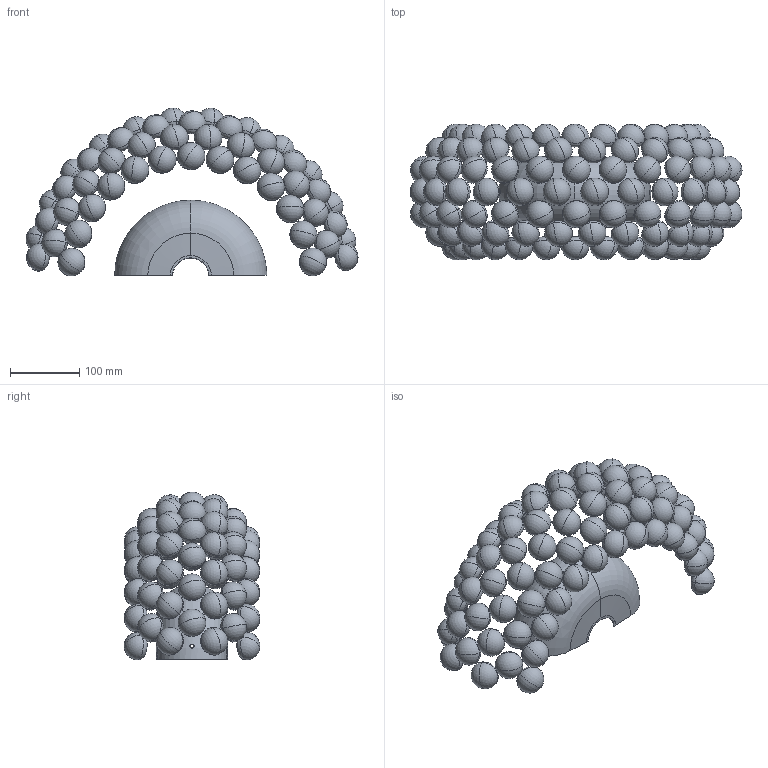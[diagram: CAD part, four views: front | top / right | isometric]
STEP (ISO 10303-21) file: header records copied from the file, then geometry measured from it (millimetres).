
FILE_DESCRIPTION (( 'STEP AP214' ), '1' );
FILE_NAME ('311_MEDIA_W_XX_3D.STEP', '2021-05-21T09:55:32', ( '' ), ( '' ), 'SwSTEP 2.0', 'SolidWorks 2021', '' );
FILE_SCHEMA (( 'AUTOMOTIVE_DESIGN' ));
Length unit declared in the file: millimetre
Products named in the file (1): 311_MEDIA_W_XX_3D
Bounding box: 479.56 x 196.08 x 242.63 mm (x, y, z)
Volume: 2551780.7 mm3; surface area: 494044.8 mm2
Topology: 89 solids, 89 shells, 817 faces, 1826 edges, 1011 vertices
Faces by surface type: sphere 352, torus 185, cylinder 182, plane 92, cone 6
Entity records: 30522 total; most frequent: DIRECTION 4343, CARTESIAN_POINT 3737, ORIENTED_EDGE 2948, AXIS2_PLACEMENT_3D 2077, EDGE_CURVE 1474, CIRCLE 1259, UNCERTAINTY_MEASURE_WITH_UNIT 908, SURFACE_SIDE_STYLE 907
